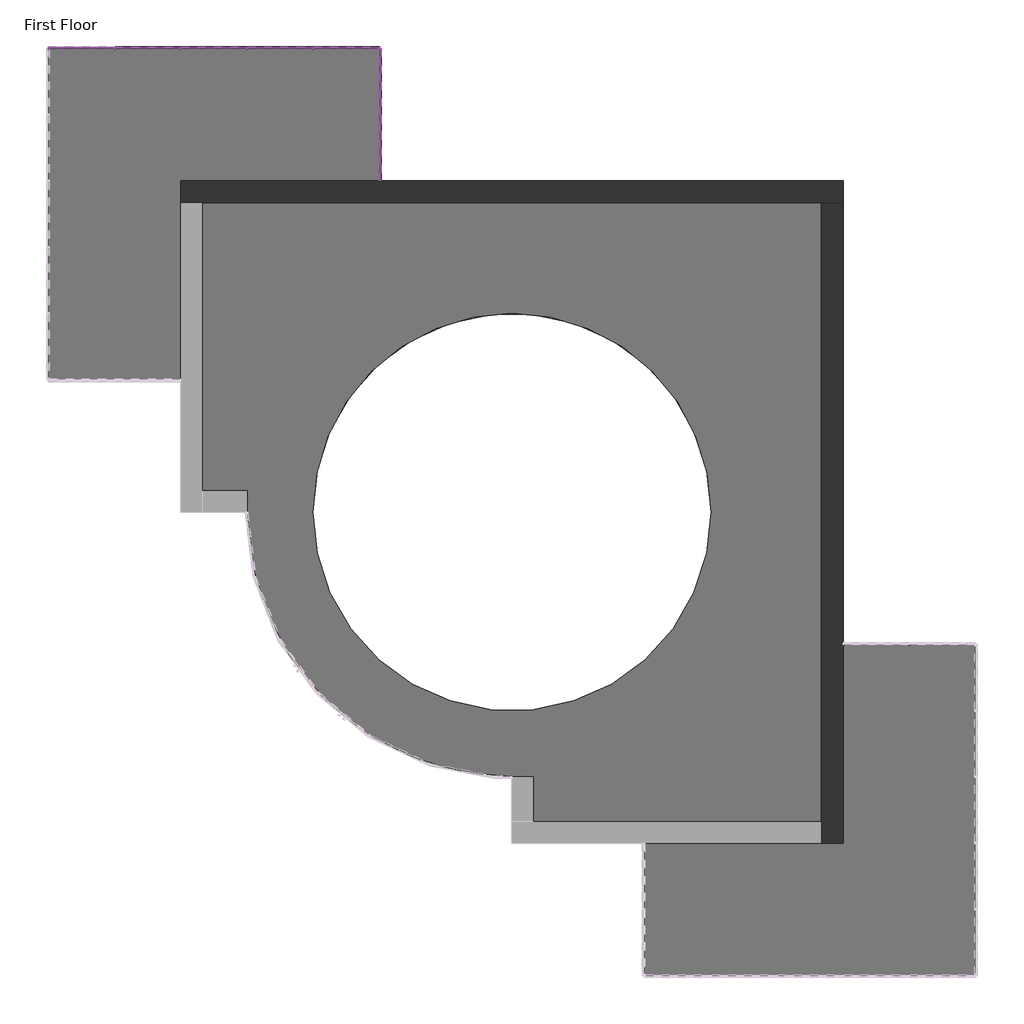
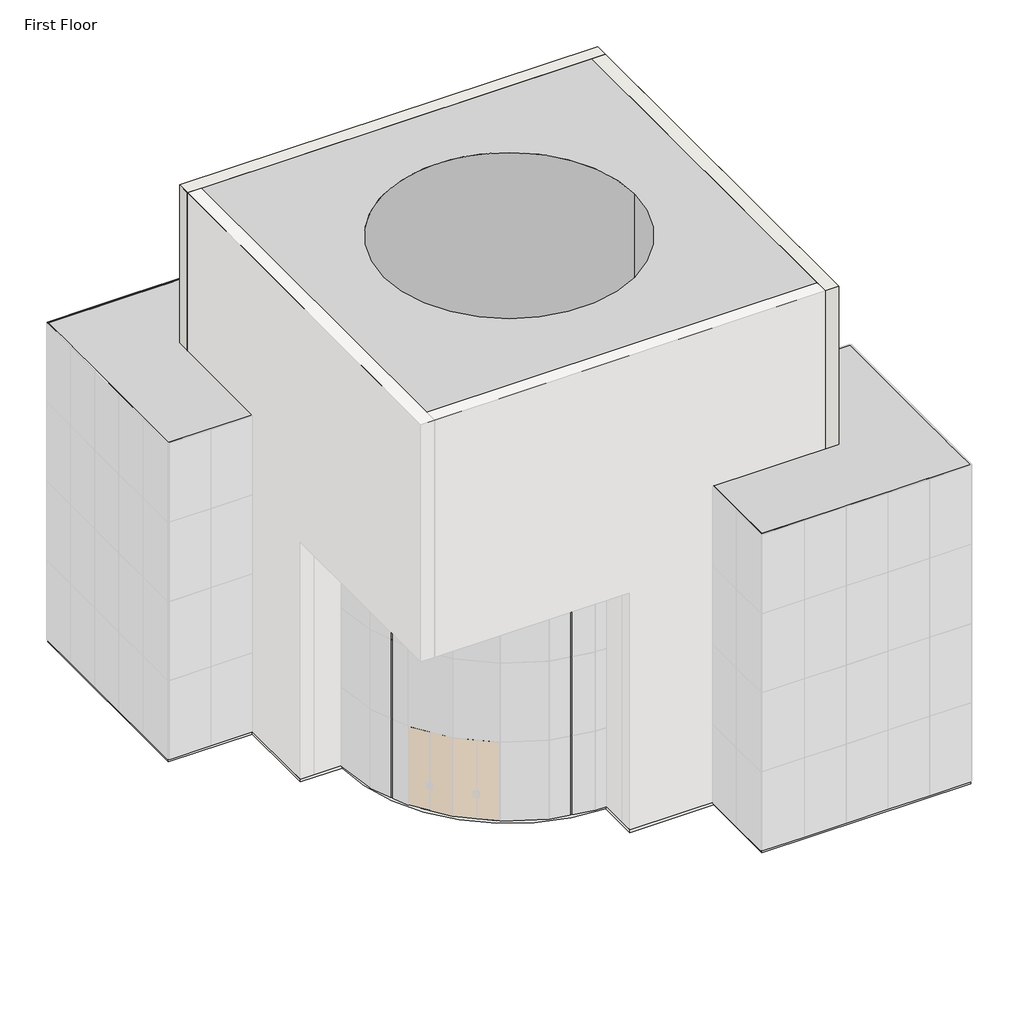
# One storey, part 4 of 4: 76 members, 27 plates, 2 proxies, 2 slabs, 2 walls.
"""IFC4 building model written with IfcOpenShell, lengths in millimetres."""

from ifc_helpers import new_model, si_unit, point, frame, frame_2d, origin, origin_with_axes, place, context, project, spatial, polyline, circle_curve, trimmed, segment, composite_curve, outline, extrude, faceted_brep, transform, mapped, element, save
from ifc_brep_helpers import plane_surface, cylinder_surface, revolved_surface, advanced_brep
from components import member_cbdb9076, member_7e523723, member_74941792, member_5e617a80, member_9fd3d903, member_6604d1e0, system_panel_glazed_9c75bc08

model = new_model("IFC4")

# Units and contexts
model_context = context("Model", 3, world=origin())
ifc_project = project(units=[si_unit("LENGTHUNIT", "METRE", prefix="MILLI")], contexts=[model_context])

# Site, building, storey
site = spatial("IfcSite", under=ifc_project)
building = spatial("IfcBuilding", under=site)
storey = spatial("IfcBuildingStorey", under=building, Name="First Floor", Elevation=0.0)

# Proxies
placement = place(None, origin())
element("IfcBuildingElementProxy", 1, Name="Central Hall : Central Hall", ObjectType="Central Hall : Central Hall", at=placement, inside=storey, context=model_context, shape_type="AdvancedBrep", body=[
    advanced_brep(
    [(5412.36523, 9703.821614, 0.0), (-9827.63477, 9703.821614, 0.0), (-9827.63477, 9703.821614, 18288.0), (5412.36523, 9703.821614, 18288.0), (-9827.63477, 2083.821614, 0.0), (-9827.63477, 2083.821614, 9144.0), (-9827.63477, -5536.178386, 9144.0), (-9827.63477, -5536.178386, 18288.0), (5412.36523, -5536.178386, 0.0), (5412.36523, -5536.178386, 18288.0), (-2207.63477, -5536.178386, 9144.0), (-2207.63477, -5536.178386, 0.0), (2364.36523, 2083.821614, 18288.0), (-6779.63477, 2083.821614, 18288.0), (-2207.63477, -4012.178386, 0.0), (-8303.63477, 2083.821614, 0.0), (-6779.63477, 2083.821614, 0.0), (2364.36523, 2083.821614, 0.0), (-2207.63477, -4012.178386, 9144.0), (-8303.63477, 2083.821614, 9144.0)],
    [
        (0, 1),
        (1, 2),
        (2, 3),
        (3, 0),
        (1, 4),
        (4, 5),
        (5, 6),
        (6, 7),
        (7, 2),
        (8, 9),
        (9, 7),
        (6, 10),
        (10, 11),
        (11, 8),
        (3, 9),
        (8, 0),
        (12, 13, circle_curve(frame((-2207.63477, 2083.821614, 18288.0), z_axis=(0.0, 0.0, -1.0), x_axis=(0.0, -1.0, 0.0)), 4572.0)),
        (13, 12, circle_curve(frame((-2207.63477, 2083.821614, 18288.0), z_axis=(0.0, 0.0, -1.0), x_axis=(0.0, 1.0, 0.0)), 4572.0)),
        (11, 14),
        (14, 15, circle_curve(frame((-2207.63477, 2083.821614, 0.0), z_axis=(0.0, 0.0, -1.0), x_axis=(-1.0, 0.0, 0.0)), 6096.0)),
        (15, 4),
        (16, 17, circle_curve(frame((-2207.63477, 2083.821614, 0.0), z_axis=(0.0, 0.0, 1.0), x_axis=(0.0, -1.0, 0.0)), 4572.0)),
        (17, 16, circle_curve(frame((-2207.63477, 2083.821614, 0.0), z_axis=(0.0, 0.0, 1.0), x_axis=(0.0, 1.0, 0.0)), 4572.0)),
        (16, 13),
        (12, 17),
        (14, 18),
        (18, 19, circle_curve(frame((-2207.63477, 2083.821614, 9144.0), z_axis=(0.0, 0.0, -1.0), x_axis=(-1.0, 0.0, 0.0)), 6096.0)),
        (19, 15),
        (19, 5),
        (10, 18),
    ],
    [
        plane_surface(frame((-2207.63477, 9703.821614, 0.0), z_axis=(0.0, 1.0, 0.0), x_axis=(-1.0, 0.0, 0.0))),
        plane_surface(frame((-9827.63477, 2083.821614, 0.0), z_axis=(-1.0, 0.0, 0.0), x_axis=(0.0, -1.0, 0.0))),
        plane_surface(frame((-2207.63477, -5536.178386, 0.0), z_axis=(0.0, -1.0, 0.0), x_axis=(1.0, 0.0, 0.0))),
        plane_surface(frame((5412.36523, 2083.821614, 0.0), z_axis=(1.0, 0.0, 0.0), x_axis=(0.0, 1.0, 0.0))),
        plane_surface(frame((-2207.63477, 2083.821614, 18288.0), z_axis=(0.0, 0.0, 1.0), x_axis=(1.0, 0.0, 0.0))),
        plane_surface(frame((-2207.63477, 2083.821614, 0.0), z_axis=(0.0, 0.0, -1.0), x_axis=(0.0, -1.0, 0.0))),
        revolved_surface(polyline([(-2207.63477, -2488.178386, 18288.0), (-2207.63477, -2488.178386, 0.0)]), (-2207.63477, 2083.821614, 0.0), (0.0, 0.0, 1.0)),
        revolved_surface(polyline([(-2207.63477, 6655.821614, 18288.0), (-2207.63477, 6655.821614, 0.0)]), (-2207.63477, 2083.821614, 0.0), (0.0, 0.0, 1.0)),
        cylinder_surface(frame((-2207.63477, 2083.821614, 0.0), z_axis=(0.0, 0.0, 1.0), x_axis=(-1.0, 0.0, 0.0)), 6096.0),
        plane_surface(frame((-9065.63477, 2083.821614, 0.0), z_axis=(0.0, -1.0, 0.0), x_axis=(-1.0, 0.0, 0.0))),
        plane_surface(frame((-2207.63477, -4774.178386, 0.0), z_axis=(-1.0, 0.0, 0.0), x_axis=(0.0, 1.0, 0.0))),
        plane_surface(frame((-6474.83477, -2183.378386, 9144.0), z_axis=(0.0, 0.0, -1.0), x_axis=(-1.0, 0.0, 0.0))),
    ],
    [
        (0, [[1, 2, 3, 4]]),
        (1, [[-2, 5, 6, 7, 8, 9]]),
        (2, [[10, 11, -8, 12, 13, 14]]),
        (3, [[-4, 15, -10, 16]]),
        (4, [[-3, -9, -11, -15], [17, 18]]),
        (5, [[-1, -16, -14, 19, 20, 21, -5], [22, 23]]),
        (6, [[24, -17, 25, -22]]),
        (7, [[-24, -23, -25, -18]]),
        (8, [[26, 27, 28, -20]]),
        (9, [[-28, 29, -6, -21]]),
        (10, [[-26, -19, -13, 30]]),
        (11, [[-27, -30, -12, -7, -29]]),
    ],
),
])
element("IfcBuildingElementProxy", 2, Name="Wings : Wings", ObjectType="Wings : Wings", at=placement, inside=storey, context=model_context, shape_type="SweptSolid", body=[
    extrude(outline(polyline([(-5255.63477, 12751.821614), (-5255.63477, 9703.821614), (-9827.63477, 9703.821614), (-9827.63477, 5131.821614), (-12875.63477, 5131.821614), (-12875.63477, 12751.821614), (-5255.63477, 12751.821614)])), origin_with_axes(), (0.0, 0.0, 1.0), 12192.0),
    extrude(outline(polyline([(8460.36523, -964.178386), (8460.36523, -8584.178386), (840.36523, -8584.178386), (840.36523, -5536.178386), (5412.36523, -5536.178386), (5412.36523, -964.178386), (8460.36523, -964.178386)])), origin_with_axes(), (0.0, 0.0, 1.0), 12192.0),
])

# Members
member_shape = member_cbdb9076(model_context)
element("IfcMember", 3, ObjectType="Rectangular Mullion : 1\" Square", at=placement, inside=storey, context=model_context, shape_type="MappedRepresentation", body=[
    mapped(member_shape, transform((-6779.63477, 12751.821614, 0.0), x_axis=(-1.0, 0.0, 0.0), y_axis=(0.0, 1.0, 0.0), z_axis=(0.0, 0.0, -1.0))),
])
element("IfcMember", 4, ObjectType="Rectangular Mullion : 1\" Square", at=placement, inside=storey, context=model_context, shape_type="MappedRepresentation", body=[
    mapped(member_shape, transform((-8303.63477, 12751.821614, 0.0), x_axis=(-1.0, 0.0, 0.0), y_axis=(0.0, 1.0, 0.0), z_axis=(0.0, 0.0, -1.0))),
])
element("IfcMember", 5, ObjectType="Rectangular Mullion : 1\" Square", at=placement, inside=storey, context=model_context, shape_type="MappedRepresentation", body=[
    mapped(member_shape, transform((-9827.63477, 12751.821614, 0.0), x_axis=(-1.0, 0.0, 0.0), y_axis=(0.0, 1.0, 0.0), z_axis=(0.0, 0.0, -1.0))),
])
element("IfcMember", 6, ObjectType="Rectangular Mullion : 1\" Square", at=placement, inside=storey, context=model_context, shape_type="MappedRepresentation", body=[
    mapped(member_shape, transform((-11351.63477, 12751.821614, 0.0), x_axis=(-1.0, 0.0, 0.0), y_axis=(0.0, 1.0, 0.0), z_axis=(0.0, 0.0, -1.0))),
])
element("IfcMember", 7, ObjectType="Rectangular Mullion : 1\" Square", at=placement, inside=storey, context=model_context, shape_type="MappedRepresentation", body=[
    mapped(member_shape, transform((-5255.63477, 11227.821614, 0.0), x_axis=(0.0, 1.0, 0.0), y_axis=(1.0, 0.0, 0.0), z_axis=(0.0, 0.0, -1.0))),
])
element("IfcMember", 8, ObjectType="Rectangular Mullion : 1\" Square", at=placement, inside=storey, context=model_context, shape_type="MappedRepresentation", body=[
    mapped(member_shape, transform((-6779.63477, 12751.821614, 3048.0), x_axis=(-1.0, 0.0, 0.0), y_axis=(0.0, 1.0, 0.0), z_axis=(0.0, 0.0, -1.0))),
])
element("IfcMember", 9, ObjectType="Rectangular Mullion : 1\" Square", at=placement, inside=storey, context=model_context, shape_type="MappedRepresentation", body=[
    mapped(member_shape, transform((-6779.63477, 12751.821614, 6096.0), x_axis=(-1.0, 0.0, 0.0), y_axis=(0.0, 1.0, 0.0), z_axis=(0.0, 0.0, -1.0))),
])
element("IfcMember", 10, ObjectType="Rectangular Mullion : 1\" Square", at=placement, inside=storey, context=model_context, shape_type="MappedRepresentation", body=[
    mapped(member_shape, transform((-8303.63477, 12751.821614, 3048.0), x_axis=(-1.0, 0.0, 0.0), y_axis=(0.0, 1.0, 0.0), z_axis=(0.0, 0.0, -1.0))),
])
element("IfcMember", 11, ObjectType="Rectangular Mullion : 1\" Square", at=placement, inside=storey, context=model_context, shape_type="MappedRepresentation", body=[
    mapped(member_shape, transform((-8303.63477, 12751.821614, 6096.0), x_axis=(-1.0, 0.0, 0.0), y_axis=(0.0, 1.0, 0.0), z_axis=(0.0, 0.0, -1.0))),
])
element("IfcMember", 12, ObjectType="Rectangular Mullion : 1\" Square", at=placement, inside=storey, context=model_context, shape_type="MappedRepresentation", body=[
    mapped(member_shape, transform((-9827.63477, 12751.821614, 3048.0), x_axis=(-1.0, 0.0, 0.0), y_axis=(0.0, 1.0, 0.0), z_axis=(0.0, 0.0, -1.0))),
])
element("IfcMember", 13, ObjectType="Rectangular Mullion : 1\" Square", at=placement, inside=storey, context=model_context, shape_type="MappedRepresentation", body=[
    mapped(member_shape, transform((-9827.63477, 12751.821614, 6096.0), x_axis=(-1.0, 0.0, 0.0), y_axis=(0.0, 1.0, 0.0), z_axis=(0.0, 0.0, -1.0))),
])
element("IfcMember", 14, ObjectType="Rectangular Mullion : 1\" Square", at=placement, inside=storey, context=model_context, shape_type="MappedRepresentation", body=[
    mapped(member_shape, transform((-11351.63477, 12751.821614, 3048.0), x_axis=(-1.0, 0.0, 0.0), y_axis=(0.0, 1.0, 0.0), z_axis=(0.0, 0.0, -1.0))),
])
element("IfcMember", 15, ObjectType="Rectangular Mullion : 1\" Square", at=placement, inside=storey, context=model_context, shape_type="MappedRepresentation", body=[
    mapped(member_shape, transform((-11351.63477, 12751.821614, 6096.0), x_axis=(-1.0, 0.0, 0.0), y_axis=(0.0, 1.0, 0.0), z_axis=(0.0, 0.0, -1.0))),
])
element("IfcMember", 16, ObjectType="Rectangular Mullion : 1\" Square", at=placement, inside=storey, context=model_context, shape_type="MappedRepresentation", body=[
    mapped(member_shape, transform((-5255.63477, 11227.821614, 3048.0), x_axis=(0.0, 1.0, 0.0), y_axis=(1.0, 0.0, 0.0), z_axis=(0.0, 0.0, -1.0))),
])
element("IfcMember", 17, ObjectType="Rectangular Mullion : 1\" Square", at=placement, inside=storey, context=model_context, shape_type="MappedRepresentation", body=[
    mapped(member_shape, transform((-5255.63477, 11227.821614, 6096.0), x_axis=(0.0, 1.0, 0.0), y_axis=(1.0, 0.0, 0.0), z_axis=(0.0, 0.0, -1.0))),
])
element("IfcMember", 18, ObjectType="Rectangular Mullion : 1\" Square", at=placement, inside=storey, context=model_context, shape_type="MappedRepresentation", body=[
    mapped(member_shape, transform((-6779.63477, 12751.821614, 9144.0), x_axis=(-1.0, 0.0, 0.0), y_axis=(0.0, 1.0, 0.0), z_axis=(0.0, 0.0, -1.0))),
])
element("IfcMember", 19, ObjectType="Rectangular Mullion : 1\" Square", at=placement, inside=storey, context=model_context, shape_type="MappedRepresentation", body=[
    mapped(member_shape, transform((-8303.63477, 12751.821614, 9144.0), x_axis=(-1.0, 0.0, 0.0), y_axis=(0.0, 1.0, 0.0), z_axis=(0.0, 0.0, -1.0))),
])
element("IfcMember", 20, ObjectType="Rectangular Mullion : 1\" Square", at=placement, inside=storey, context=model_context, shape_type="MappedRepresentation", body=[
    mapped(member_shape, transform((-9827.63477, 12751.821614, 9144.0), x_axis=(-1.0, 0.0, 0.0), y_axis=(0.0, 1.0, 0.0), z_axis=(0.0, 0.0, -1.0))),
])
element("IfcMember", 21, ObjectType="Rectangular Mullion : 1\" Square", at=placement, inside=storey, context=model_context, shape_type="MappedRepresentation", body=[
    mapped(member_shape, transform((-11351.63477, 12751.821614, 9144.0), x_axis=(-1.0, 0.0, 0.0), y_axis=(0.0, 1.0, 0.0), z_axis=(0.0, 0.0, -1.0))),
])
element("IfcMember", 22, ObjectType="Rectangular Mullion : 1\" Square", at=placement, inside=storey, context=model_context, shape_type="MappedRepresentation", body=[
    mapped(member_shape, transform((-5255.63477, 11227.821614, 9144.0), x_axis=(0.0, 1.0, 0.0), y_axis=(1.0, 0.0, 0.0), z_axis=(0.0, 0.0, -1.0))),
])
member_2_shape = member_7e523723(model_context)
element("IfcMember", 23, ObjectType="Rectangular Mullion : 1\" Square", at=placement, inside=storey, context=model_context, shape_type="MappedRepresentation", body=[
    mapped(member_2_shape, transform((-12875.63477, 12751.821614, 0.0), x_axis=(-1.0, 0.0, 0.0), y_axis=(0.0, 1.0, 0.0), z_axis=(0.0, 0.0, -1.0))),
])
element("IfcMember", 24, ObjectType="Rectangular Mullion : 1\" Square", at=placement, inside=storey, context=model_context, shape_type="MappedRepresentation", body=[
    mapped(member_2_shape, transform((-5255.63477, 12751.821614, 0.0), x_axis=(0.0, 1.0, 0.0), y_axis=(1.0, 0.0, 0.0), z_axis=(0.0, 0.0, -1.0))),
])
element("IfcMember", 25, ObjectType="Rectangular Mullion : 1\" Square", at=placement, inside=storey, context=model_context, shape_type="MappedRepresentation", body=[
    mapped(member_2_shape, transform((-12875.63477, 12751.821614, 12192.0), x_axis=(0.0, 1.0, 0.0), y_axis=(-1.0, 0.0, 0.0), z_axis=(0.0, 0.0, 1.0))),
])
element("IfcMember", 26, ObjectType="Rectangular Mullion : 1\" Square", at=placement, inside=storey, context=model_context, shape_type="MappedRepresentation", body=[
    mapped(member_2_shape, transform((-5255.63477, 12751.821614, 12192.0), x_axis=(1.0, 0.0, 0.0), y_axis=(0.0, 1.0, 0.0), z_axis=(0.0, 0.0, 1.0))),
])
element("IfcMember", 27, ObjectType="Rectangular Mullion : 1\" Square", at=placement, inside=storey, context=model_context, shape_type="MappedRepresentation", body=[
    mapped(member_2_shape, transform((-5255.63477, 9703.821614, 12192.0), x_axis=(0.0, -1.0, 0.0), y_axis=(1.0, 0.0, 0.0), z_axis=(0.0, 0.0, 1.0))),
])
element("IfcMember", 28, ObjectType="Rectangular Mullion : 1\" Square", at=placement, inside=storey, context=model_context, shape_type="MappedRepresentation", body=[
    mapped(member_2_shape, transform((-12875.63477, 12751.821614, 3048.0), x_axis=(0.0, 1.0, 0.0), y_axis=(-1.0, 0.0, 0.0), z_axis=(0.0, 0.0, 1.0))),
])
element("IfcMember", 29, ObjectType="Rectangular Mullion : 1\" Square", at=placement, inside=storey, context=model_context, shape_type="MappedRepresentation", body=[
    mapped(member_2_shape, transform((-5255.63477, 12751.821614, 3048.0), x_axis=(1.0, 0.0, 0.0), y_axis=(0.0, 1.0, 0.0), z_axis=(0.0, 0.0, 1.0))),
])
element("IfcMember", 30, ObjectType="Rectangular Mullion : 1\" Square", at=placement, inside=storey, context=model_context, shape_type="MappedRepresentation", body=[
    mapped(member_2_shape, transform((-5255.63477, 9703.821614, 3048.0), x_axis=(0.0, -1.0, 0.0), y_axis=(1.0, 0.0, 0.0), z_axis=(0.0, 0.0, 1.0))),
])
element("IfcMember", 31, ObjectType="Rectangular Mullion : 1\" Square", at=placement, inside=storey, context=model_context, shape_type="MappedRepresentation", body=[
    mapped(member_2_shape, transform((-12875.63477, 12751.821614, 6096.0), x_axis=(0.0, 1.0, 0.0), y_axis=(-1.0, 0.0, 0.0), z_axis=(0.0, 0.0, 1.0))),
])
element("IfcMember", 32, ObjectType="Rectangular Mullion : 1\" Square", at=placement, inside=storey, context=model_context, shape_type="MappedRepresentation", body=[
    mapped(member_2_shape, transform((-12875.63477, 12751.821614, 9144.0), x_axis=(0.0, 1.0, 0.0), y_axis=(-1.0, 0.0, 0.0), z_axis=(0.0, 0.0, 1.0))),
])
element("IfcMember", 33, ObjectType="Rectangular Mullion : 1\" Square", at=placement, inside=storey, context=model_context, shape_type="MappedRepresentation", body=[
    mapped(member_2_shape, transform((-5255.63477, 12751.821614, 6096.0), x_axis=(1.0, 0.0, 0.0), y_axis=(0.0, 1.0, 0.0), z_axis=(0.0, 0.0, 1.0))),
])
element("IfcMember", 34, ObjectType="Rectangular Mullion : 1\" Square", at=placement, inside=storey, context=model_context, shape_type="MappedRepresentation", body=[
    mapped(member_2_shape, transform((-5255.63477, 12751.821614, 9144.0), x_axis=(1.0, 0.0, 0.0), y_axis=(0.0, 1.0, 0.0), z_axis=(0.0, 0.0, 1.0))),
])
element("IfcMember", 35, ObjectType="Rectangular Mullion : 1\" Square", at=placement, inside=storey, context=model_context, shape_type="MappedRepresentation", body=[
    mapped(member_2_shape, transform((-5255.63477, 9703.821614, 6096.0), x_axis=(0.0, -1.0, 0.0), y_axis=(1.0, 0.0, 0.0), z_axis=(0.0, 0.0, 1.0))),
])
element("IfcMember", 36, ObjectType="Rectangular Mullion : 1\" Square", at=placement, inside=storey, context=model_context, shape_type="MappedRepresentation", body=[
    mapped(member_2_shape, transform((-5255.63477, 9703.821614, 9144.0), x_axis=(0.0, -1.0, 0.0), y_axis=(1.0, 0.0, 0.0), z_axis=(0.0, 0.0, 1.0))),
])
element("IfcMember", 37, ObjectType="Rectangular Mullion : 1\" Square", at=placement, inside=storey, context=model_context, shape_type="MappedRepresentation", body=[
    mapped(member_2_shape, transform((-12875.63477, 12751.821614, 3048.0), x_axis=(-1.0, 0.0, 0.0), y_axis=(0.0, 1.0, 0.0), z_axis=(0.0, 0.0, -1.0))),
])
element("IfcMember", 38, ObjectType="Rectangular Mullion : 1\" Square", at=placement, inside=storey, context=model_context, shape_type="MappedRepresentation", body=[
    mapped(member_2_shape, transform((-12875.63477, 12751.821614, 6096.0), x_axis=(-1.0, 0.0, 0.0), y_axis=(0.0, 1.0, 0.0), z_axis=(0.0, 0.0, -1.0))),
])
element("IfcMember", 39, ObjectType="Rectangular Mullion : 1\" Square", at=placement, inside=storey, context=model_context, shape_type="MappedRepresentation", body=[
    mapped(member_2_shape, transform((-5255.63477, 12751.821614, 3048.0), x_axis=(0.0, 1.0, 0.0), y_axis=(1.0, 0.0, 0.0), z_axis=(0.0, 0.0, -1.0))),
])
element("IfcMember", 40, ObjectType="Rectangular Mullion : 1\" Square", at=placement, inside=storey, context=model_context, shape_type="MappedRepresentation", body=[
    mapped(member_2_shape, transform((-5255.63477, 12751.821614, 6096.0), x_axis=(0.0, 1.0, 0.0), y_axis=(1.0, 0.0, 0.0), z_axis=(0.0, 0.0, -1.0))),
])
element("IfcMember", 41, ObjectType="Rectangular Mullion : 1\" Square", at=placement, inside=storey, context=model_context, shape_type="MappedRepresentation", body=[
    mapped(member_2_shape, transform((-12875.63477, 12751.821614, 9144.0), x_axis=(-1.0, 0.0, 0.0), y_axis=(0.0, 1.0, 0.0), z_axis=(0.0, 0.0, -1.0))),
])
element("IfcMember", 42, ObjectType="Rectangular Mullion : 1\" Square", at=placement, inside=storey, context=model_context, shape_type="MappedRepresentation", body=[
    mapped(member_2_shape, transform((-5255.63477, 12751.821614, 9144.0), x_axis=(0.0, 1.0, 0.0), y_axis=(1.0, 0.0, 0.0), z_axis=(0.0, 0.0, -1.0))),
])
member_3_shape = member_74941792(model_context)
element("IfcMember", 43, ObjectType="Rectangular Mullion : 1\" Square", at=placement, inside=storey, context=model_context, shape_type="MappedRepresentation", body=[
    mapped(member_3_shape, transform((-12850.23477, 12751.821614, 12192.0), x_axis=(0.0, 0.0, 1.0), y_axis=(0.0, 1.0, 0.0), z_axis=(-1.0, 0.0, 0.0))),
])
element("IfcMember", 44, ObjectType="Rectangular Mullion : 1\" Square", at=placement, inside=storey, context=model_context, shape_type="MappedRepresentation", body=[
    mapped(member_3_shape, transform((-6766.93477, 12751.821614, 12192.0), x_axis=(0.0, 0.0, 1.0), y_axis=(0.0, 1.0, 0.0), z_axis=(-1.0, 0.0, 0.0))),
])
element("IfcMember", 45, ObjectType="Rectangular Mullion : 1\" Square", at=placement, inside=storey, context=model_context, shape_type="MappedRepresentation", body=[
    mapped(member_3_shape, transform((-5255.63477, 12726.421614, 12192.0), x_axis=(0.0, 0.0, 1.0), y_axis=(1.0, 0.0, 0.0), z_axis=(0.0, 1.0, 0.0))),
])
element("IfcMember", 46, ObjectType="Rectangular Mullion : 1\" Square", at=placement, inside=storey, context=model_context, shape_type="MappedRepresentation", body=[
    mapped(member_3_shape, transform((-5255.63477, 11215.121614, 12192.0), x_axis=(0.0, 0.0, 1.0), y_axis=(1.0, 0.0, 0.0), z_axis=(0.0, 1.0, 0.0))),
])
element("IfcMember", 47, ObjectType="Rectangular Mullion : 1\" Square", at=placement, inside=storey, context=model_context, shape_type="MappedRepresentation", body=[
    mapped(member_3_shape, transform((-12875.63477, 12726.421614, 0.0), x_axis=(0.0, 0.0, -1.0), y_axis=(-1.0, 0.0, 0.0), z_axis=(0.0, 1.0, 0.0))),
])
element("IfcMember", 48, ObjectType="Rectangular Mullion : 1\" Square", at=placement, inside=storey, context=model_context, shape_type="MappedRepresentation", body=[
    mapped(member_3_shape, transform((-5281.03477, 12751.821614, 0.0), x_axis=(0.0, 0.0, -1.0), y_axis=(0.0, 1.0, 0.0), z_axis=(1.0, 0.0, 0.0))),
])
element("IfcMember", 49, ObjectType="Rectangular Mullion : 1\" Square", at=placement, inside=storey, context=model_context, shape_type="MappedRepresentation", body=[
    mapped(member_3_shape, transform((-11364.33477, 12751.821614, 0.0), x_axis=(0.0, 0.0, -1.0), y_axis=(0.0, 1.0, 0.0), z_axis=(1.0, 0.0, 0.0))),
])
element("IfcMember", 50, ObjectType="Rectangular Mullion : 1\" Square", at=placement, inside=storey, context=model_context, shape_type="MappedRepresentation", body=[
    mapped(member_3_shape, transform((-5255.63477, 9729.221614, 0.0), x_axis=(0.0, 0.0, -1.0), y_axis=(1.0, 0.0, 0.0), z_axis=(0.0, -1.0, 0.0))),
])
element("IfcMember", 51, ObjectType="Rectangular Mullion : 1\" Square", at=placement, inside=storey, context=model_context, shape_type="MappedRepresentation", body=[
    mapped(member_3_shape, transform((-5255.63477, 11240.521614, 0.0), x_axis=(0.0, 0.0, -1.0), y_axis=(1.0, 0.0, 0.0), z_axis=(0.0, -1.0, 0.0))),
])
member_4_shape = member_5e617a80(model_context)
element("IfcMember", 52, ObjectType="Rectangular Mullion : 1\" Square", at=placement, inside=storey, context=model_context, shape_type="MappedRepresentation", body=[
    mapped(member_4_shape, transform((-6766.93477, 12751.821614, 3048.0), x_axis=(0.0, 0.0, 1.0), y_axis=(0.0, 1.0, 0.0), z_axis=(-1.0, 0.0, 0.0))),
])
element("IfcMember", 53, ObjectType="Rectangular Mullion : 1\" Square", at=placement, inside=storey, context=model_context, shape_type="MappedRepresentation", body=[
    mapped(member_4_shape, transform((-12850.23477, 12751.821614, 3048.0), x_axis=(0.0, 0.0, 1.0), y_axis=(0.0, 1.0, 0.0), z_axis=(-1.0, 0.0, 0.0))),
])
element("IfcMember", 54, ObjectType="Rectangular Mullion : 1\" Square", at=placement, inside=storey, context=model_context, shape_type="MappedRepresentation", body=[
    mapped(member_4_shape, transform((-6766.93477, 12751.821614, 6096.0), x_axis=(0.0, 0.0, 1.0), y_axis=(0.0, 1.0, 0.0), z_axis=(-1.0, 0.0, 0.0))),
])
element("IfcMember", 55, ObjectType="Rectangular Mullion : 1\" Square", at=placement, inside=storey, context=model_context, shape_type="MappedRepresentation", body=[
    mapped(member_4_shape, transform((-12850.23477, 12751.821614, 6096.0), x_axis=(0.0, 0.0, 1.0), y_axis=(0.0, 1.0, 0.0), z_axis=(-1.0, 0.0, 0.0))),
])
element("IfcMember", 56, ObjectType="Rectangular Mullion : 1\" Square", at=placement, inside=storey, context=model_context, shape_type="MappedRepresentation", body=[
    mapped(member_4_shape, transform((-6766.93477, 12751.821614, 9144.0), x_axis=(0.0, 0.0, 1.0), y_axis=(0.0, 1.0, 0.0), z_axis=(-1.0, 0.0, 0.0))),
])
element("IfcMember", 57, ObjectType="Rectangular Mullion : 1\" Square", at=placement, inside=storey, context=model_context, shape_type="MappedRepresentation", body=[
    mapped(member_4_shape, transform((-12850.23477, 12751.821614, 9144.0), x_axis=(0.0, 0.0, 1.0), y_axis=(0.0, 1.0, 0.0), z_axis=(-1.0, 0.0, 0.0))),
])
element("IfcMember", 58, ObjectType="Rectangular Mullion : 1\" Square", at=placement, inside=storey, context=model_context, shape_type="MappedRepresentation", body=[
    mapped(member_4_shape, transform((-5255.63477, 11215.121614, 3048.0), x_axis=(0.0, 0.0, 1.0), y_axis=(1.0, 0.0, 0.0), z_axis=(0.0, 1.0, 0.0))),
])
element("IfcMember", 59, ObjectType="Rectangular Mullion : 1\" Square", at=placement, inside=storey, context=model_context, shape_type="MappedRepresentation", body=[
    mapped(member_4_shape, transform((-5255.63477, 12726.421614, 3048.0), x_axis=(0.0, 0.0, 1.0), y_axis=(1.0, 0.0, 0.0), z_axis=(0.0, 1.0, 0.0))),
])
element("IfcMember", 60, ObjectType="Rectangular Mullion : 1\" Square", at=placement, inside=storey, context=model_context, shape_type="MappedRepresentation", body=[
    mapped(member_4_shape, transform((-5255.63477, 11215.121614, 6096.0), x_axis=(0.0, 0.0, 1.0), y_axis=(1.0, 0.0, 0.0), z_axis=(0.0, 1.0, 0.0))),
])
element("IfcMember", 61, ObjectType="Rectangular Mullion : 1\" Square", at=placement, inside=storey, context=model_context, shape_type="MappedRepresentation", body=[
    mapped(member_4_shape, transform((-5255.63477, 12726.421614, 6096.0), x_axis=(0.0, 0.0, 1.0), y_axis=(1.0, 0.0, 0.0), z_axis=(0.0, 1.0, 0.0))),
])
element("IfcMember", 62, ObjectType="Rectangular Mullion : 1\" Square", at=placement, inside=storey, context=model_context, shape_type="MappedRepresentation", body=[
    mapped(member_4_shape, transform((-5255.63477, 11215.121614, 9144.0), x_axis=(0.0, 0.0, 1.0), y_axis=(1.0, 0.0, 0.0), z_axis=(0.0, 1.0, 0.0))),
])
element("IfcMember", 63, ObjectType="Rectangular Mullion : 1\" Square", at=placement, inside=storey, context=model_context, shape_type="MappedRepresentation", body=[
    mapped(member_4_shape, transform((-5255.63477, 12726.421614, 9144.0), x_axis=(0.0, 0.0, 1.0), y_axis=(1.0, 0.0, 0.0), z_axis=(0.0, 1.0, 0.0))),
])
member_5_shape = member_9fd3d903(model_context)
element("IfcMember", 64, ObjectType="Rectangular Mullion : 1\" Square", at=placement, inside=storey, context=model_context, shape_type="MappedRepresentation", body=[
    mapped(member_5_shape, transform((-8290.93477, 12751.821614, 3048.0), x_axis=(0.0, 0.0, 1.0), y_axis=(0.0, 1.0, 0.0), z_axis=(-1.0, 0.0, 0.0))),
])
element("IfcMember", 65, ObjectType="Rectangular Mullion : 1\" Square", at=placement, inside=storey, context=model_context, shape_type="MappedRepresentation", body=[
    mapped(member_5_shape, transform((-9814.93477, 12751.821614, 3048.0), x_axis=(0.0, 0.0, 1.0), y_axis=(0.0, 1.0, 0.0), z_axis=(-1.0, 0.0, 0.0))),
])
element("IfcMember", 66, ObjectType="Rectangular Mullion : 1\" Square", at=placement, inside=storey, context=model_context, shape_type="MappedRepresentation", body=[
    mapped(member_5_shape, transform((-11338.93477, 12751.821614, 3048.0), x_axis=(0.0, 0.0, 1.0), y_axis=(0.0, 1.0, 0.0), z_axis=(-1.0, 0.0, 0.0))),
])
element("IfcMember", 67, ObjectType="Rectangular Mullion : 1\" Square", at=placement, inside=storey, context=model_context, shape_type="MappedRepresentation", body=[
    mapped(member_5_shape, transform((-8290.93477, 12751.821614, 6096.0), x_axis=(0.0, 0.0, 1.0), y_axis=(0.0, 1.0, 0.0), z_axis=(-1.0, 0.0, 0.0))),
])
element("IfcMember", 68, ObjectType="Rectangular Mullion : 1\" Square", at=placement, inside=storey, context=model_context, shape_type="MappedRepresentation", body=[
    mapped(member_5_shape, transform((-9814.93477, 12751.821614, 6096.0), x_axis=(0.0, 0.0, 1.0), y_axis=(0.0, 1.0, 0.0), z_axis=(-1.0, 0.0, 0.0))),
])
element("IfcMember", 69, ObjectType="Rectangular Mullion : 1\" Square", at=placement, inside=storey, context=model_context, shape_type="MappedRepresentation", body=[
    mapped(member_5_shape, transform((-11338.93477, 12751.821614, 6096.0), x_axis=(0.0, 0.0, 1.0), y_axis=(0.0, 1.0, 0.0), z_axis=(-1.0, 0.0, 0.0))),
])
element("IfcMember", 70, ObjectType="Rectangular Mullion : 1\" Square", at=placement, inside=storey, context=model_context, shape_type="MappedRepresentation", body=[
    mapped(member_5_shape, transform((-8290.93477, 12751.821614, 9144.0), x_axis=(0.0, 0.0, 1.0), y_axis=(0.0, 1.0, 0.0), z_axis=(-1.0, 0.0, 0.0))),
])
element("IfcMember", 71, ObjectType="Rectangular Mullion : 1\" Square", at=placement, inside=storey, context=model_context, shape_type="MappedRepresentation", body=[
    mapped(member_5_shape, transform((-9814.93477, 12751.821614, 9144.0), x_axis=(0.0, 0.0, 1.0), y_axis=(0.0, 1.0, 0.0), z_axis=(-1.0, 0.0, 0.0))),
])
element("IfcMember", 72, ObjectType="Rectangular Mullion : 1\" Square", at=placement, inside=storey, context=model_context, shape_type="MappedRepresentation", body=[
    mapped(member_5_shape, transform((-11338.93477, 12751.821614, 9144.0), x_axis=(0.0, 0.0, 1.0), y_axis=(0.0, 1.0, 0.0), z_axis=(-1.0, 0.0, 0.0))),
])
member_6_shape = member_6604d1e0(model_context)
element("IfcMember", 73, ObjectType="Rectangular Mullion : 1\" Square", at=placement, inside=storey, context=model_context, shape_type="MappedRepresentation", body=[
    mapped(member_6_shape, transform((-6792.33477, 12751.821614, 0.0), x_axis=(0.0, 0.0, -1.0), y_axis=(0.0, 1.0, 0.0), z_axis=(1.0, 0.0, 0.0))),
])
element("IfcMember", 74, ObjectType="Rectangular Mullion : 1\" Square", at=placement, inside=storey, context=model_context, shape_type="MappedRepresentation", body=[
    mapped(member_6_shape, transform((-8316.33477, 12751.821614, 0.0), x_axis=(0.0, 0.0, -1.0), y_axis=(0.0, 1.0, 0.0), z_axis=(1.0, 0.0, 0.0))),
])
element("IfcMember", 75, ObjectType="Rectangular Mullion : 1\" Square", at=placement, inside=storey, context=model_context, shape_type="MappedRepresentation", body=[
    mapped(member_6_shape, transform((-9840.33477, 12751.821614, 0.0), x_axis=(0.0, 0.0, -1.0), y_axis=(0.0, 1.0, 0.0), z_axis=(1.0, 0.0, 0.0))),
])
element("IfcMember", 76, ObjectType="Rectangular Mullion : 1\" Square", at=placement, inside=storey, context=model_context, shape_type="MappedRepresentation", body=[
    mapped(member_6_shape, transform((-8290.93477, 12751.821614, 12192.0), x_axis=(0.0, 0.0, 1.0), y_axis=(0.0, 1.0, 0.0), z_axis=(-1.0, 0.0, 0.0))),
])
element("IfcMember", 77, ObjectType="Rectangular Mullion : 1\" Square", at=placement, inside=storey, context=model_context, shape_type="MappedRepresentation", body=[
    mapped(member_6_shape, transform((-9814.93477, 12751.821614, 12192.0), x_axis=(0.0, 0.0, 1.0), y_axis=(0.0, 1.0, 0.0), z_axis=(-1.0, 0.0, 0.0))),
])
element("IfcMember", 78, ObjectType="Rectangular Mullion : 1\" Square", at=placement, inside=storey, context=model_context, shape_type="MappedRepresentation", body=[
    mapped(member_6_shape, transform((-11338.93477, 12751.821614, 12192.0), x_axis=(0.0, 0.0, 1.0), y_axis=(0.0, 1.0, 0.0), z_axis=(-1.0, 0.0, 0.0))),
])

# Plates
system_panel_glazed_shape = system_panel_glazed_9c75bc08(model_context)
element("IfcPlate", 79, ObjectType="System Panel : Glazed", at=placement, inside=storey, context=model_context, shape_type="MappedRepresentation", body=[
    mapped(system_panel_glazed_shape, transform((-6017.63477, 12751.821614, 0.0), x_axis=(-1.0, 0.0, 0.0), y_axis=(0.0, -1.0, 0.0), z_axis=(0.0, 0.0, 1.0))),
])
element("IfcPlate", 80, ObjectType="System Panel : Glazed", at=placement, inside=storey, context=model_context, shape_type="MappedRepresentation", body=[
    mapped(system_panel_glazed_shape, transform((-7541.63477, 12751.821614, 0.0), x_axis=(-1.0, 0.0, 0.0), y_axis=(0.0, -1.0, 0.0), z_axis=(0.0, 0.0, 1.0))),
])
element("IfcPlate", 81, ObjectType="System Panel : Glazed", at=placement, inside=storey, context=model_context, shape_type="MappedRepresentation", body=[
    mapped(system_panel_glazed_shape, transform((-9065.63477, 12751.821614, 0.0), x_axis=(-1.0, 0.0, 0.0), y_axis=(0.0, -1.0, 0.0), z_axis=(0.0, 0.0, 1.0))),
])
element("IfcPlate", 82, ObjectType="System Panel : Glazed", at=placement, inside=storey, context=model_context, shape_type="MappedRepresentation", body=[
    mapped(system_panel_glazed_shape, transform((-10589.63477, 12751.821614, 0.0), x_axis=(-1.0, 0.0, 0.0), y_axis=(0.0, -1.0, 0.0), z_axis=(0.0, 0.0, 1.0))),
])
element("IfcPlate", 83, ObjectType="System Panel : Glazed", at=placement, inside=storey, context=model_context, shape_type="MappedRepresentation", body=[
    mapped(system_panel_glazed_shape, transform((-6017.63477, 12751.821614, 3048.0), x_axis=(-1.0, 0.0, 0.0), y_axis=(0.0, -1.0, 0.0), z_axis=(0.0, 0.0, 1.0))),
])
element("IfcPlate", 84, ObjectType="System Panel : Glazed", at=placement, inside=storey, context=model_context, shape_type="MappedRepresentation", body=[
    mapped(system_panel_glazed_shape, transform((-7541.63477, 12751.821614, 3048.0), x_axis=(-1.0, 0.0, 0.0), y_axis=(0.0, -1.0, 0.0), z_axis=(0.0, 0.0, 1.0))),
])
element("IfcPlate", 85, ObjectType="System Panel : Glazed", at=placement, inside=storey, context=model_context, shape_type="MappedRepresentation", body=[
    mapped(system_panel_glazed_shape, transform((-9065.63477, 12751.821614, 3048.0), x_axis=(-1.0, 0.0, 0.0), y_axis=(0.0, -1.0, 0.0), z_axis=(0.0, 0.0, 1.0))),
])
element("IfcPlate", 86, ObjectType="System Panel : Glazed", at=placement, inside=storey, context=model_context, shape_type="MappedRepresentation", body=[
    mapped(system_panel_glazed_shape, transform((-10589.63477, 12751.821614, 3048.0), x_axis=(-1.0, 0.0, 0.0), y_axis=(0.0, -1.0, 0.0), z_axis=(0.0, 0.0, 1.0))),
])
element("IfcPlate", 87, ObjectType="System Panel : Glazed", at=placement, inside=storey, context=model_context, shape_type="MappedRepresentation", body=[
    mapped(system_panel_glazed_shape, transform((-12113.63477, 12751.821614, 3048.0), x_axis=(-1.0, 0.0, 0.0), y_axis=(0.0, -1.0, 0.0), z_axis=(0.0, 0.0, 1.0))),
])
element("IfcPlate", 88, ObjectType="System Panel : Glazed", at=placement, inside=storey, context=model_context, shape_type="MappedRepresentation", body=[
    mapped(system_panel_glazed_shape, transform((-6017.63477, 12751.821614, 6096.0), x_axis=(-1.0, 0.0, 0.0), y_axis=(0.0, -1.0, 0.0), z_axis=(0.0, 0.0, 1.0))),
])
element("IfcPlate", 89, ObjectType="System Panel : Glazed", at=placement, inside=storey, context=model_context, shape_type="MappedRepresentation", body=[
    mapped(system_panel_glazed_shape, transform((-7541.63477, 12751.821614, 6096.0), x_axis=(-1.0, 0.0, 0.0), y_axis=(0.0, -1.0, 0.0), z_axis=(0.0, 0.0, 1.0))),
])
element("IfcPlate", 90, ObjectType="System Panel : Glazed", at=placement, inside=storey, context=model_context, shape_type="MappedRepresentation", body=[
    mapped(system_panel_glazed_shape, transform((-9065.63477, 12751.821614, 6096.0), x_axis=(-1.0, 0.0, 0.0), y_axis=(0.0, -1.0, 0.0), z_axis=(0.0, 0.0, 1.0))),
])
element("IfcPlate", 91, ObjectType="System Panel : Glazed", at=placement, inside=storey, context=model_context, shape_type="MappedRepresentation", body=[
    mapped(system_panel_glazed_shape, transform((-10589.63477, 12751.821614, 6096.0), x_axis=(-1.0, 0.0, 0.0), y_axis=(0.0, -1.0, 0.0), z_axis=(0.0, 0.0, 1.0))),
])
element("IfcPlate", 92, ObjectType="System Panel : Glazed", at=placement, inside=storey, context=model_context, shape_type="MappedRepresentation", body=[
    mapped(system_panel_glazed_shape, transform((-12113.63477, 12751.821614, 6096.0), x_axis=(-1.0, 0.0, 0.0), y_axis=(0.0, -1.0, 0.0), z_axis=(0.0, 0.0, 1.0))),
])
element("IfcPlate", 93, ObjectType="System Panel : Glazed", at=placement, inside=storey, context=model_context, shape_type="MappedRepresentation", body=[
    mapped(system_panel_glazed_shape, transform((-6017.63477, 12751.821614, 9144.0), x_axis=(-1.0, 0.0, 0.0), y_axis=(0.0, -1.0, 0.0), z_axis=(0.0, 0.0, 1.0))),
])
element("IfcPlate", 94, ObjectType="System Panel : Glazed", at=placement, inside=storey, context=model_context, shape_type="MappedRepresentation", body=[
    mapped(system_panel_glazed_shape, transform((-7541.63477, 12751.821614, 9144.0), x_axis=(-1.0, 0.0, 0.0), y_axis=(0.0, -1.0, 0.0), z_axis=(0.0, 0.0, 1.0))),
])
element("IfcPlate", 95, ObjectType="System Panel : Glazed", at=placement, inside=storey, context=model_context, shape_type="MappedRepresentation", body=[
    mapped(system_panel_glazed_shape, transform((-9065.63477, 12751.821614, 9144.0), x_axis=(-1.0, 0.0, 0.0), y_axis=(0.0, -1.0, 0.0), z_axis=(0.0, 0.0, 1.0))),
])
element("IfcPlate", 96, ObjectType="System Panel : Glazed", at=placement, inside=storey, context=model_context, shape_type="MappedRepresentation", body=[
    mapped(system_panel_glazed_shape, transform((-10589.63477, 12751.821614, 9144.0), x_axis=(-1.0, 0.0, 0.0), y_axis=(0.0, -1.0, 0.0), z_axis=(0.0, 0.0, 1.0))),
])
element("IfcPlate", 97, ObjectType="System Panel : Glazed", at=placement, inside=storey, context=model_context, shape_type="MappedRepresentation", body=[
    mapped(system_panel_glazed_shape, transform((-12113.63477, 12751.821614, 9144.0), x_axis=(-1.0, 0.0, 0.0), y_axis=(0.0, -1.0, 0.0), z_axis=(0.0, 0.0, 1.0))),
])
element("IfcPlate", 98, ObjectType="System Panel : Glazed", at=placement, inside=storey, context=model_context, shape_type="MappedRepresentation", body=[
    mapped(system_panel_glazed_shape, transform((-5255.63477, 10465.821614, 0.0), x_axis=(0.0, 1.0, 0.0), y_axis=(-1.0, 0.0, 0.0), z_axis=(0.0, 0.0, 1.0))),
])
element("IfcPlate", 99, ObjectType="System Panel : Glazed", at=placement, inside=storey, context=model_context, shape_type="MappedRepresentation", body=[
    mapped(system_panel_glazed_shape, transform((-5255.63477, 11989.821614, 0.0), x_axis=(0.0, 1.0, 0.0), y_axis=(-1.0, 0.0, 0.0), z_axis=(0.0, 0.0, 1.0))),
])
element("IfcPlate", 100, ObjectType="System Panel : Glazed", at=placement, inside=storey, context=model_context, shape_type="MappedRepresentation", body=[
    mapped(system_panel_glazed_shape, transform((-5255.63477, 10465.821614, 3048.0), x_axis=(0.0, 1.0, 0.0), y_axis=(-1.0, 0.0, 0.0), z_axis=(0.0, 0.0, 1.0))),
])
element("IfcPlate", 101, ObjectType="System Panel : Glazed", at=placement, inside=storey, context=model_context, shape_type="MappedRepresentation", body=[
    mapped(system_panel_glazed_shape, transform((-5255.63477, 11989.821614, 3048.0), x_axis=(0.0, 1.0, 0.0), y_axis=(-1.0, 0.0, 0.0), z_axis=(0.0, 0.0, 1.0))),
])
element("IfcPlate", 102, ObjectType="System Panel : Glazed", at=placement, inside=storey, context=model_context, shape_type="MappedRepresentation", body=[
    mapped(system_panel_glazed_shape, transform((-5255.63477, 10465.821614, 6096.0), x_axis=(0.0, 1.0, 0.0), y_axis=(-1.0, 0.0, 0.0), z_axis=(0.0, 0.0, 1.0))),
])
element("IfcPlate", 103, ObjectType="System Panel : Glazed", at=placement, inside=storey, context=model_context, shape_type="MappedRepresentation", body=[
    mapped(system_panel_glazed_shape, transform((-5255.63477, 11989.821614, 6096.0), x_axis=(0.0, 1.0, 0.0), y_axis=(-1.0, 0.0, 0.0), z_axis=(0.0, 0.0, 1.0))),
])
element("IfcPlate", 104, ObjectType="System Panel : Glazed", at=placement, inside=storey, context=model_context, shape_type="MappedRepresentation", body=[
    mapped(system_panel_glazed_shape, transform((-5255.63477, 10465.821614, 9144.0), x_axis=(0.0, 1.0, 0.0), y_axis=(-1.0, 0.0, 0.0), z_axis=(0.0, 0.0, 1.0))),
])
element("IfcPlate", 105, ObjectType="System Panel : Glazed", at=placement, inside=storey, context=model_context, shape_type="MappedRepresentation", body=[
    mapped(system_panel_glazed_shape, transform((-5255.63477, 11989.821614, 9144.0), x_axis=(0.0, 1.0, 0.0), y_axis=(-1.0, 0.0, 0.0), z_axis=(0.0, 0.0, 1.0))),
])

# Slabs
element("IfcSlab", 106, ObjectType="LW Concrete on Metal Deck", at=placement, inside=storey, context=model_context, shape_type="SweptSolid", body=[
    extrude(outline(composite_curve([segment(polyline([(5412.36523, 9703.821614), (5412.36523, -5536.178386), (-2207.63477, -5536.178386), (-2207.63477, -4012.178386)]), True, "CONTINUOUS"), segment(trimmed(circle_curve(frame_2d((-2207.63477, 2083.821614)), 6096.0), [point((-2207.63477, -4012.178386))], [point((-8303.63477, 2083.821614))], False, "CARTESIAN"), True, "CONTINUOUS"), segment(polyline([(-8303.63477, 2083.821614), (-9827.63477, 2083.821614), (-9827.63477, 9703.821614), (5412.36523, 9703.821614)]), True, "CONTINUOUS")], self_intersect=False), holes=[composite_curve([segment(trimmed(circle_curve(frame_2d((-2207.63477, 2083.821614)), 4572.0), [point((2364.36523, 2083.821614))], [point((-6779.63477, 2083.821614))], True, "CARTESIAN"), True, "CONTINUOUS"), segment(trimmed(circle_curve(frame_2d((-2207.63477, 2083.821614)), 4572.0), [point((-6779.63477, 2083.821614))], [point((2364.36523, 2083.821614))], True, "CARTESIAN"), True, "CONTINUOUS")], self_intersect=False)]), frame((0.0, 0.0, -104.775), z_axis=(0.0, 0.0, 1.0), x_axis=(1.0, 0.0, 0.0)), (0.0, 0.0, 1.0), 104.775),
])
element("IfcSlab", 107, ObjectType="LW Concrete on Metal Deck", at=placement, inside=storey, context=model_context, shape_type="SweptSolid", body=[
    extrude(outline(polyline([(-5255.63477, 12751.821614), (-5255.63477, 9703.821614), (-9827.63477, 9703.821614), (-9827.63477, 5131.821614), (-12875.63477, 5131.821614), (-12875.63477, 12751.821614), (-5255.63477, 12751.821614)])), frame((0.0, 0.0, -104.775), z_axis=(0.0, 0.0, 1.0), x_axis=(1.0, 0.0, 0.0)), (0.0, 0.0, 1.0), 104.775),
    extrude(outline(polyline([(8460.36523, -964.178386), (8460.36523, -8584.178386), (840.36523, -8584.178386), (840.36523, -5536.178386), (5412.36523, -5536.178386), (5412.36523, -964.178386), (8460.36523, -964.178386)])), frame((0.0, 0.0, -104.775), z_axis=(0.0, 0.0, 1.0), x_axis=(1.0, 0.0, 0.0)), (0.0, 0.0, 1.0), 104.775),
])

# Walls
element("IfcWall", 108, ObjectType="Exterior - Brick on CMU", at=placement, inside=storey, context=model_context, shape_type="Brep", body=[
    faceted_brep([(5412.36523, 9703.821614, 0.0), (-9827.63477, 9703.821614, 0.0), (-9827.63477, 9703.821614, 18288.0), (5412.36523, 9703.821614, 18288.0), (5412.36523, 9208.521614, 0.0), (5412.36523, 9208.521614, 18288.0), (4917.06523, 9208.521614, 18288.0), (-9332.33477, 9208.521614, 18288.0), (-9827.63477, 9208.521614, 18288.0), (-9827.63477, 9208.521614, 0.0), (-9332.33477, 9208.521614, 0.0), (4917.06523, 9208.521614, 0.0)], [[[0, 1, 2, 3]], [[4, 5, 6, 7, 8, 9, 10, 11]], [[1, 0, 4, 11, 10, 9]], [[3, 2, 8, 7, 6, 5]], [[0, 3, 5, 4]], [[2, 1, 9, 8]]]),
])
element("IfcWall", 109, ObjectType="Exterior - Brick on CMU", at=placement, inside=storey, context=model_context, shape_type="Brep", body=[
    faceted_brep([(5412.36523, -5536.178386, 0.0), (5412.36523, 9208.521614, 0.0), (5412.36523, 9208.521614, 18288.0), (5412.36523, -5536.178386, 18288.0), (4917.06523, -5536.178386, 0.0), (4917.06523, -5536.178386, 18288.0), (4917.06523, -5040.878386, 18288.0), (4917.06523, 9208.521614, 18288.0), (4917.06523, 9208.521614, 0.0), (4917.06523, -5040.878386, 0.0)], [[[0, 1, 2, 3]], [[4, 5, 6, 7, 8, 9]], [[1, 0, 4, 9, 8]], [[3, 2, 7, 6, 5]], [[2, 1, 8, 7]], [[0, 3, 5, 4]]]),
])

save(model, "model.ifc")
